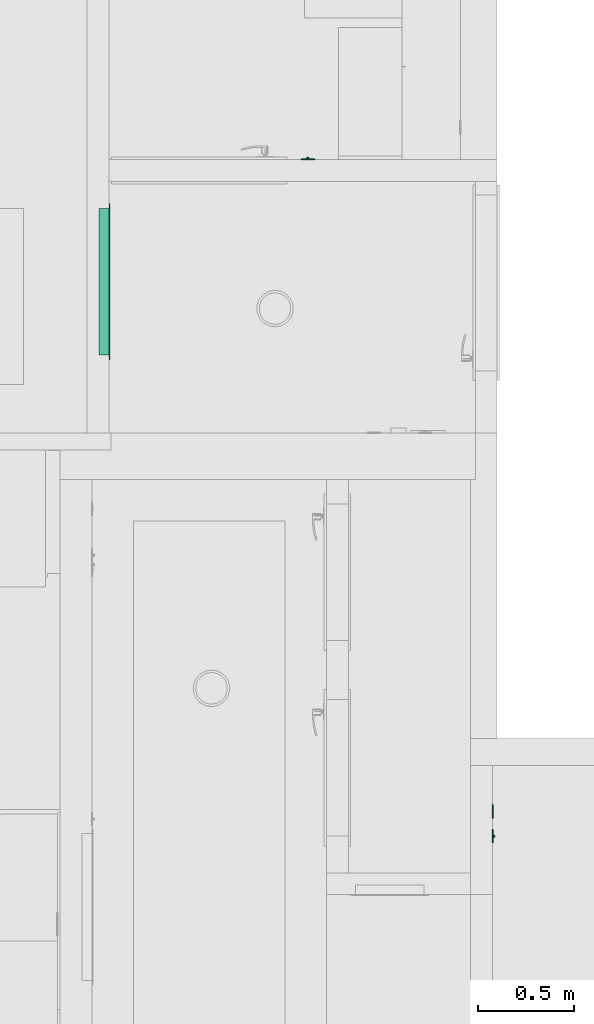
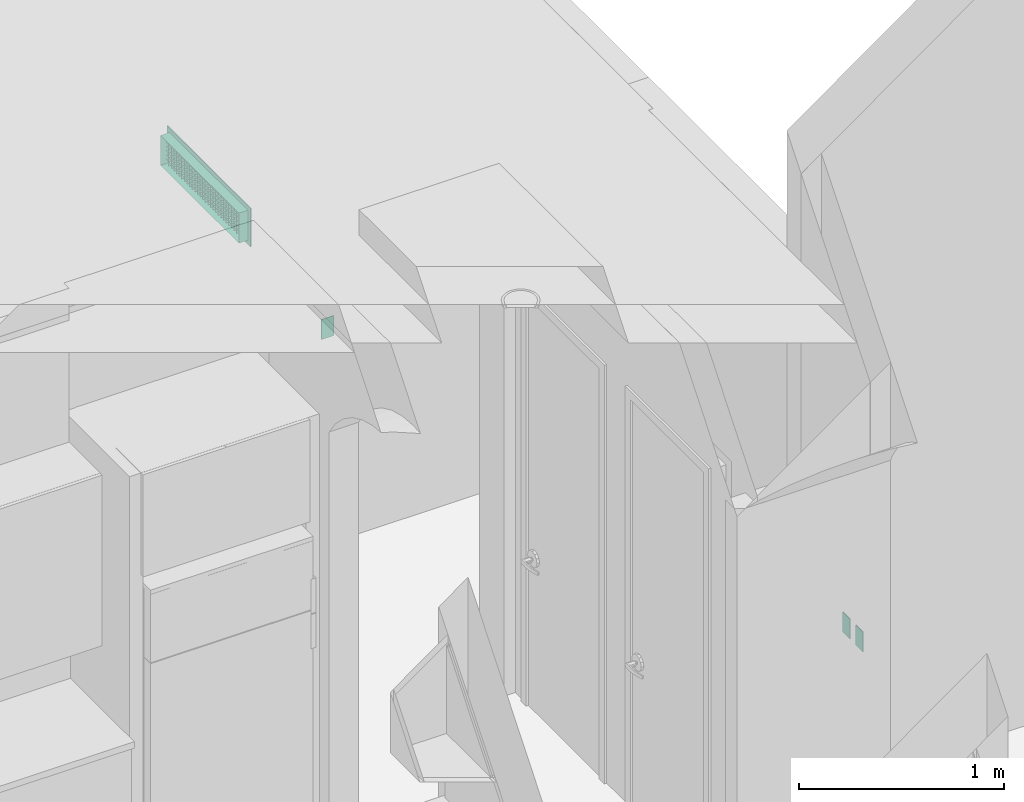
# One storey, part 29 of 103: 3 flow controllers, 1 distribution flow element.
"""IFC2X3 building model written with IfcOpenShell, lengths in inches."""

from ifc_helpers import new_model, entity, si_unit, converted_unit, derived_unit, money_unit, direction, frame, origin_with_axes, place, context, subcontext, project, spatial, open_shell, faceted_brep, surface_model, source, transform, mapped, type_object, element, save


model = new_model("IFC2X3")

# Units and contexts
model_context = context("Model", 3, precision=0.00039370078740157, world=origin_with_axes(), true_north=direction((0.0, 1.0)))
plan_context = context("Plan", 3, precision=0.00039370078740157, world=origin_with_axes(), true_north=direction((0.0, 1.0)))
body_context = subcontext(model_context, "Body", "Model", "MODEL_VIEW")
ifc_project = project(units=[converted_unit("LENGTHUNIT", "INCH", entity("IfcPositiveLengthMeasure", 0.0254), si_unit("LENGTHUNIT", "METRE"), dimensions=[1, 0, 0, 0, 0, 0, 0]), converted_unit("AREAUNIT", "SQUARE_FOOT", entity("IfcPositiveLengthMeasure", 0.09290304), si_unit("AREAUNIT", "SQUARE_METRE"), dimensions=[2, 0, 0, 0, 0, 0, 0]), si_unit("PLANEANGLEUNIT", "RADIAN"), si_unit("SOLIDANGLEUNIT", "STERADIAN"), money_unit("USD"), converted_unit("TIMEUNIT", "Year", entity("IfcTimeMeasure", 31557600.0), si_unit("TIMEUNIT", "SECOND"), dimensions=[0, 0, 1, 0, 0, 0, 0]), si_unit("MASSUNIT", "GRAM", prefix="KILO"), si_unit("THERMODYNAMICTEMPERATUREUNIT", "DEGREE_CELSIUS"), si_unit("LUMINOUSINTENSITYUNIT", "LUMEN"), si_unit("ENERGYUNIT", "JOULE", prefix="MEGA"), derived_unit("SPECIFICHEATCAPACITYUNIT", [(si_unit("ENERGYUNIT", "JOULE"), 1), (si_unit("MASSUNIT", "GRAM", prefix="KILO"), -1), (si_unit("THERMODYNAMICTEMPERATUREUNIT", "KELVIN"), -1)])], contexts=[model_context, plan_context])

# Site, building, storey
site_placement = place(None, origin_with_axes())
site = spatial("IfcSite", under=ifc_project, at=site_placement, Name="Site", CompositionType="ELEMENT")
building_placement = place(site_placement, origin_with_axes())
building = spatial("IfcBuilding", under=site, at=building_placement, Name="Building", CompositionType="ELEMENT")
storey_placement = place(building_placement, frame((0.0, 0.0, 127.9999999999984), z_axis=(0.0, 0.0, 1.0), x_axis=(1.0, 0.0, 0.0)))
storey = spatial("IfcBuildingStorey", under=building, at=storey_placement, Name="Second Floor", CompositionType="ELEMENT", Elevation=128.0)

# Flow controllers
switching_device_type_1 = type_object("IfcSwitchingDeviceType", Name="Switch US", PredefinedType="NOTDEFINED")
shared_shape_1 = source(origin_with_axes(), body_context, "Body", "Brep", [
    faceted_brep([(0.196850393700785, 0.0, -0.5905511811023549), (-0.196850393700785, 0.0, -0.5905511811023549), (-0.196850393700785, 0.0, 0.5905511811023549), (0.196850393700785, 0.0, 0.5905511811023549), (0.196850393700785, -0.1033464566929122, -0.5905511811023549), (-0.196850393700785, -0.1033464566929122, -0.5905511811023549), (-0.196850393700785, -0.1033464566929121, 0.157480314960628), (-0.196850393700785, -0.4970472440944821, 0.1574803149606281), (-0.196850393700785, -0.4970472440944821, 0.472440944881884), (-0.196850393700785, -0.1033464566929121, 0.472440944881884), (-0.196850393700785, -0.1033464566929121, 0.5905511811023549), (0.196850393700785, -0.103346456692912, 0.5905511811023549), (0.196850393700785, -0.1033464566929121, 0.472440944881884), (0.196850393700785, -0.4970472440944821, 0.472440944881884), (0.196850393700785, -0.4970472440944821, 0.1574803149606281), (0.196850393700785, -0.1033464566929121, 0.157480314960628)], [[[0, 1, 2, 3]], [[4, 5, 1, 0]], [[1, 5, 6, 7, 8, 9, 10, 2]], [[3, 2, 10, 11]], [[0, 3, 11, 12, 13, 14, 15, 4]], [[15, 6, 5, 4]], [[14, 7, 6, 15]], [[13, 8, 7, 14]], [[12, 9, 8, 13]], [[11, 10, 9, 12]]]),
    faceted_brep([(0.275590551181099, 0.0, -0.669291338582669), (0.275590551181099, -0.1771653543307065, -0.669291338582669), (-0.275590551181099, -0.1771653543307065, -0.669291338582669), (-0.275590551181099, 0.0, -0.669291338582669), (0.275590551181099, 0.0, 0.669291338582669), (0.275590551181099, -0.1771653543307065, 0.669291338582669), (-0.275590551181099, -0.1771653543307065, 0.669291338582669), (0.196850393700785, -0.1771653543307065, -0.5905511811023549), (-0.196850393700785, -0.1771653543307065, -0.5905511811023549), (-0.196850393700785, -0.1771653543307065, 0.5905511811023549), (0.196850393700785, -0.1771653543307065, 0.5905511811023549), (-0.275590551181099, 0.0, 0.669291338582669), (0.196850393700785, 0.0, -0.5905511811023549), (0.196850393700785, 0.0, 0.5905511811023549), (-0.196850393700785, 0.0, 0.5905511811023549), (-0.196850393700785, 0.0, -0.5905511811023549)], [[[0, 1, 2, 3]], [[4, 5, 1, 0]], [[1, 5, 6, 2], [7, 8, 9, 10]], [[3, 2, 6, 11]], [[0, 3, 11, 4], [12, 13, 14, 15]], [[11, 6, 5, 4]], [[15, 8, 7, 12]], [[14, 9, 8, 15]], [[13, 10, 9, 14]], [[12, 7, 10, 13]]]),
    faceted_brep([(1.343503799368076, -0.1377952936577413, 2.32775574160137), (-1.343503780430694, -0.1377952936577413, 2.32775574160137), (-1.343503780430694, -0.1377952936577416, -2.327755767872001), (1.343503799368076, -0.1377952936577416, -2.327755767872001), (0.275590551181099, -0.1377952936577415, -0.669291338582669), (-0.275590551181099, -0.1377952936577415, -0.669291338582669), (-0.275590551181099, -0.1377952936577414, 0.669291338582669), (0.275590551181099, -0.1377952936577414, 0.669291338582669), (1.352419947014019, -0.1366214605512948, 2.336671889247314), (-1.352419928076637, -0.1366214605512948, 2.336671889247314), (-1.352419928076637, -0.1366214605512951, -2.336671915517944), (1.352419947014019, -0.1366214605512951, -2.336671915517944), (-0.275590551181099, 0.0, -0.669291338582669), (0.275590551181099, 0.0, -0.669291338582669), (-0.275590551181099, 0.0, 0.669291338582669), (0.275590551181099, 0.0, 0.669291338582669), (1.36786294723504, -0.1277054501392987, 2.352114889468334), (-1.367862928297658, -0.1277054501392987, 2.352114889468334), (-1.367862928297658, -0.1277054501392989, -2.352114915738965), (1.36786294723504, -0.1277054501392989, -2.352114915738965), (1.377952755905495, 0.0, 2.36220472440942), (1.377952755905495, 0.0, -2.36220472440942), (-1.377952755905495, 0.0, -2.36220472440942), (-1.377952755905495, 0.0, 2.36220472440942), (1.376778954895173, -0.1122624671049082, 2.361030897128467), (-1.376778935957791, -0.1122624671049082, 2.361030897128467), (-1.376778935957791, -0.1122624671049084, -2.361030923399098), (1.376778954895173, -0.1122624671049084, -2.361030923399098), (1.377952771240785, -0.103346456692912, 2.362204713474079), (1.377952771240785, -0.1033464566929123, -2.36220473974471), (-1.377952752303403, -0.1033464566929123, -2.36220473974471), (-1.377952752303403, -0.103346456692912, 2.362204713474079)], [[[0, 1, 2, 3], [4, 5, 6, 7]], [[8, 9, 1, 0]], [[9, 10, 2, 1]], [[10, 11, 3, 2]], [[11, 8, 0, 3]], [[12, 5, 4, 13]], [[14, 6, 5, 12]], [[15, 7, 6, 14]], [[13, 4, 7, 15]], [[16, 17, 9, 8]], [[17, 18, 10, 9]], [[18, 19, 11, 10]], [[19, 16, 8, 11]], [[20, 21, 22, 23], [13, 15, 14, 12]], [[24, 25, 17, 16]], [[25, 26, 18, 17]], [[26, 27, 19, 18]], [[27, 24, 16, 19]], [[21, 20, 28, 29]], [[22, 21, 29, 30]], [[23, 22, 30, 31]], [[20, 23, 31, 28]], [[28, 31, 25, 24]], [[31, 30, 26, 25]], [[30, 29, 27, 26]], [[29, 28, 24, 27]]]),
])
for number, where, z_axis, x_axis, name in (
    (1, (205.7486662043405, 456.9999999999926, 46.99999999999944), (0.0, 0.0, 1.0), (-1.0, 0.0, 0.0), "OBJ-09"),
    (2, (243.4999999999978, 318.4999999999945, 44.99999999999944), (0.0, 0.0, 1.0), (0.0, 1.0, 0.0), "OBJ-09"),
):
    element("IfcFlowController", number, at=place(storey_placement, frame(where, z_axis=z_axis, x_axis=x_axis)), inside=storey, type_object=switching_device_type_1, Name=name, context=body_context, shape_type="MappedRepresentation", body=[
        mapped(shared_shape_1, transform((0.0, 0.0, 0.0))),
    ])
switching_device_type_2 = type_object("IfcSwitchingDeviceType", Name="Outlet 1 US", PredefinedType="NOTDEFINED")
shared_shape_2 = source(origin_with_axes(), body_context, "Body", "Brep", [
    faceted_brep([(0.39370078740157, -0.0344488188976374, -0.472440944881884), (0.3937007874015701, -0.03444881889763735, 0.472440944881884), (0.3937007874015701, -0.2165354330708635, 0.472440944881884), (0.39370078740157, -0.2165354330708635, -0.472440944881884), (-0.3937007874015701, -0.0344488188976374, -0.4724409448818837), (-0.39370078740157, -0.03444881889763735, 0.472440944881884), (-0.39370078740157, -0.2165354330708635, 0.472440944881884), (-0.3937007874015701, -0.2165354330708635, -0.4724409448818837)], [[[0, 1, 2, 3]], [[0, 4, 5, 1]], [[1, 5, 6, 2]], [[3, 2, 6, 7]], [[4, 0, 3, 7]], [[5, 4, 7, 6]]]),
    faceted_brep([(1.377952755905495, -0.1377952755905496, -2.36220472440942), (1.377952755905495, -0.1377952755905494, 2.36220472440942), (-1.377952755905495, -0.1377952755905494, 2.36220472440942), (-1.377952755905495, -0.1377952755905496, -2.36220472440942), (-0.3937007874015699, -0.1377952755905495, -0.4724409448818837), (-0.39370078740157, -0.1377952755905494, 0.4724409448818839), (0.3937007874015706, -0.1377952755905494, 0.4724409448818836), (0.39370078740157, -0.1377952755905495, -0.472440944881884), (1.377952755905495, 0.0, 2.36220472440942), (1.377952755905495, 0.0, -2.36220472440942), (-1.377952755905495, 0.0, 2.36220472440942), (-1.377952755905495, 0.0, -2.36220472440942), (-0.3937007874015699, -0.0344488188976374, -0.4724409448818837), (-0.39370078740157, -0.03444881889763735, 0.4724409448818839), (0.3937007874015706, -0.03444881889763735, 0.4724409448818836), (0.39370078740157, -0.0344488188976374, -0.472440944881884)], [[[0, 1, 2, 3], [4, 5, 6, 7]], [[8, 1, 0, 9]], [[10, 2, 1, 8]], [[11, 3, 2, 10]], [[9, 0, 3, 11]], [[5, 4, 12, 13]], [[6, 5, 13, 14]], [[7, 6, 14, 15]], [[4, 7, 15, 12]], [[10, 8, 9, 11]], [[14, 13, 12, 15]]]),
])
flow_controller_placement = place(storey_placement, frame((243.4999999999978, 323.4999999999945, 44.99999999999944), z_axis=(0.0, 0.0, 1.0), x_axis=(0.0, 1.0, 0.0)))
element("IfcFlowController", 3, at=flow_controller_placement, inside=storey, type_object=switching_device_type_2, Name="OBJ-05", context=body_context, shape_type="MappedRepresentation", body=[
    mapped(shared_shape_2, transform((0.0, 0.0, 0.0))),
])

# Distribution flow element
valve_type = type_object("IfcValveType", Name="Sidewall Grille", PredefinedType="NOTDEFINED")
shared_shape_3 = source(origin_with_axes(), body_context, "Body", "SurfaceModel", [
    faceted_brep([(15.99987696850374, -0.1968503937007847, -4.499876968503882), (-15.99987696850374, -0.1968503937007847, -4.499876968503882), (-15.99987696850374, 0.0, -4.499876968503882), (15.99987696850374, 0.0, -4.499876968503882), (15.99987696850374, -0.1968503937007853, 4.499876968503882), (-15.99987696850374, -0.1968503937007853, 4.499876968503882), (15.01562499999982, -0.1968503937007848, -3.515624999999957), (-15.01562499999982, -0.1968503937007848, -3.515624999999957), (-15.01562499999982, -0.1968503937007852, 3.515624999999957), (15.01562499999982, -0.1968503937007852, 3.515624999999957), (-15.99987696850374, 0.0, 4.499876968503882), (15.99987696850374, 0.0, 4.499876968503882), (15.01562499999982, 0.0, -3.515624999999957), (15.01562499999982, 0.0, 3.515624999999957), (-15.01562499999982, 0.0, 3.515624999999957), (-15.01562499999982, 0.0, -3.515624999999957)], [[[0, 1, 2, 3]], [[0, 4, 5, 1], [6, 7, 8, 9]], [[1, 5, 10, 2]], [[3, 2, 10, 11], [12, 13, 14, 15]], [[4, 0, 3, 11]], [[5, 4, 11, 10]], [[7, 6, 12, 15]], [[8, 7, 15, 14]], [[9, 8, 14, 13]], [[6, 9, 13, 12]]]),
    surface_model("IfcShellBasedSurfaceModel", [(-14.97625492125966, -0.1968503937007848, -3.499999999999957), (14.97625492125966, -0.1968503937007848, -3.499999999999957), (14.97625492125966, 0.7874015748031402, -3.499999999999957), (-14.97625492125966, 0.7874015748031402, -3.499999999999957)], [open_shell([[[0, 1, 2, 3]]])]),
    surface_model("IfcShellBasedSurfaceModel", [(-14.97625492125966, -0.1968503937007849, -2.499999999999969), (14.97625492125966, -0.1968503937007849, -2.499999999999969), (14.97625492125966, 0.7874015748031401, -2.499999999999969), (-14.97625492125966, 0.7874015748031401, -2.499999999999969)], [open_shell([[[0, 1, 2, 3]]])]),
    surface_model("IfcShellBasedSurfaceModel", [(-14.97625492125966, -0.1968503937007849, -1.499999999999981), (14.97625492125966, -0.1968503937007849, -1.499999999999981), (14.97625492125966, 0.7874015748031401, -1.499999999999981), (-14.97625492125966, 0.7874015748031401, -1.499999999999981)], [open_shell([[[0, 1, 2, 3]]])]),
    surface_model("IfcShellBasedSurfaceModel", [(-14.97625492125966, -0.196850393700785, -0.499999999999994), (14.97625492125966, -0.196850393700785, -0.499999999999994), (14.97625492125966, 0.7874015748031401, -0.499999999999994), (-14.97625492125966, 0.7874015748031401, -0.499999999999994)], [open_shell([[[0, 1, 2, 3]]])]),
    surface_model("IfcShellBasedSurfaceModel", [(-14.97625492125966, -0.196850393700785, 0.499999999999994), (14.97625492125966, -0.196850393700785, 0.499999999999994), (14.97625492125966, 0.78740157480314, 0.499999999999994), (-14.97625492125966, 0.78740157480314, 0.499999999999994)], [open_shell([[[0, 1, 2, 3]]])]),
    surface_model("IfcShellBasedSurfaceModel", [(-14.97625492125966, -0.1968503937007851, 1.499999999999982), (14.97625492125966, -0.1968503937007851, 1.499999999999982), (14.97625492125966, 0.7874015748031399, 1.499999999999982), (-14.97625492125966, 0.7874015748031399, 1.499999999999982)], [open_shell([[[0, 1, 2, 3]]])]),
    surface_model("IfcShellBasedSurfaceModel", [(-14.97625492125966, -0.1968503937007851, 2.499999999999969), (14.97625492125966, -0.1968503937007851, 2.499999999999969), (14.97625492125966, 0.7874015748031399, 2.499999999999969), (-14.97625492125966, 0.7874015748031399, 2.499999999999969)], [open_shell([[[0, 1, 2, 3]]])]),
    surface_model("IfcShellBasedSurfaceModel", [(-14.97625492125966, -0.1968503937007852, 3.499999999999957), (14.97625492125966, -0.1968503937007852, 3.499999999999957), (14.97625492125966, 0.7874015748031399, 3.499999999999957), (-14.97625492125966, 0.7874015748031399, 3.499999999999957)], [open_shell([[[0, 1, 2, 3]]])]),
    surface_model("IfcShellBasedSurfaceModel", [(14.99999999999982, -0.1968503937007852, 3.4762549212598), (14.99999999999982, -0.1968503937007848, -3.4762549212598), (14.99999999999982, 0.7874015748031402, -3.4762549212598), (14.99999999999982, 0.7874015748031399, 3.4762549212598)], [open_shell([[[0, 1, 2, 3]]])]),
    surface_model("IfcShellBasedSurfaceModel", [(13.99999999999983, -0.1968503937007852, 3.4762549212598), (13.99999999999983, -0.1968503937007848, -3.4762549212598), (13.99999999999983, 0.7874015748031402, -3.4762549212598), (13.99999999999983, 0.7874015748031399, 3.4762549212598)], [open_shell([[[0, 1, 2, 3]]])]),
    surface_model("IfcShellBasedSurfaceModel", [(12.99999999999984, -0.1968503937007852, 3.4762549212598), (12.99999999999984, -0.1968503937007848, -3.4762549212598), (12.99999999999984, 0.7874015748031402, -3.4762549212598), (12.99999999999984, 0.7874015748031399, 3.4762549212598)], [open_shell([[[0, 1, 2, 3]]])]),
    surface_model("IfcShellBasedSurfaceModel", [(11.99999999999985, -0.1968503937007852, 3.4762549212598), (11.99999999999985, -0.1968503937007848, -3.4762549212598), (11.99999999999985, 0.7874015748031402, -3.4762549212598), (11.99999999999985, 0.7874015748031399, 3.4762549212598)], [open_shell([[[0, 1, 2, 3]]])]),
    surface_model("IfcShellBasedSurfaceModel", [(10.99999999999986, -0.1968503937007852, 3.4762549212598), (10.99999999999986, -0.1968503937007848, -3.4762549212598), (10.99999999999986, 0.7874015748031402, -3.4762549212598), (10.99999999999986, 0.7874015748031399, 3.4762549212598)], [open_shell([[[0, 1, 2, 3]]])]),
    surface_model("IfcShellBasedSurfaceModel", [(9.999999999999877, -0.1968503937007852, 3.4762549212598), (9.999999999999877, -0.1968503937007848, -3.4762549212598), (9.999999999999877, 0.7874015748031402, -3.4762549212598), (9.999999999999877, 0.7874015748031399, 3.4762549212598)], [open_shell([[[0, 1, 2, 3]]])]),
    surface_model("IfcShellBasedSurfaceModel", [(8.999999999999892, -0.1968503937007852, 3.4762549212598), (8.999999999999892, -0.1968503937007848, -3.4762549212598), (8.999999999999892, 0.7874015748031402, -3.4762549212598), (8.999999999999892, 0.7874015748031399, 3.4762549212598)], [open_shell([[[0, 1, 2, 3]]])]),
    surface_model("IfcShellBasedSurfaceModel", [(7.999999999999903, -0.1968503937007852, 3.4762549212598), (7.999999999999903, -0.1968503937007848, -3.4762549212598), (7.999999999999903, 0.7874015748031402, -3.4762549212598), (7.999999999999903, 0.7874015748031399, 3.4762549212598)], [open_shell([[[0, 1, 2, 3]]])]),
    surface_model("IfcShellBasedSurfaceModel", [(6.999999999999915, -0.1968503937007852, 3.4762549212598), (6.999999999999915, -0.1968503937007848, -3.4762549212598), (6.999999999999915, 0.7874015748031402, -3.4762549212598), (6.999999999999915, 0.7874015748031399, 3.4762549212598)], [open_shell([[[0, 1, 2, 3]]])]),
    surface_model("IfcShellBasedSurfaceModel", [(5.999999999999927, -0.1968503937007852, 3.4762549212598), (5.999999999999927, -0.1968503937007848, -3.4762549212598), (5.999999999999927, 0.7874015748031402, -3.4762549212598), (5.999999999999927, 0.7874015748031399, 3.4762549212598)], [open_shell([[[0, 1, 2, 3]]])]),
    surface_model("IfcShellBasedSurfaceModel", [(4.999999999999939, -0.1968503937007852, 3.4762549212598), (4.999999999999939, -0.1968503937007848, -3.4762549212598), (4.999999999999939, 0.7874015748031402, -3.4762549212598), (4.999999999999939, 0.7874015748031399, 3.4762549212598)], [open_shell([[[0, 1, 2, 3]]])]),
    surface_model("IfcShellBasedSurfaceModel", [(3.999999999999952, -0.1968503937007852, 3.4762549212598), (3.999999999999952, -0.1968503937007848, -3.4762549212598), (3.999999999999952, 0.7874015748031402, -3.4762549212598), (3.999999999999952, 0.7874015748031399, 3.4762549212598)], [open_shell([[[0, 1, 2, 3]]])]),
    surface_model("IfcShellBasedSurfaceModel", [(2.999999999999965, -0.1968503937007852, 3.4762549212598), (2.999999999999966, -0.1968503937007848, -3.4762549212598), (2.999999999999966, 0.7874015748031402, -3.4762549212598), (2.999999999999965, 0.7874015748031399, 3.4762549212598)], [open_shell([[[0, 1, 2, 3]]])]),
    surface_model("IfcShellBasedSurfaceModel", [(1.999999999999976, -0.1968503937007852, 3.4762549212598), (1.999999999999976, -0.1968503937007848, -3.4762549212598), (1.999999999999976, 0.7874015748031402, -3.4762549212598), (1.999999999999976, 0.7874015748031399, 3.4762549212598)], [open_shell([[[0, 1, 2, 3]]])]),
    surface_model("IfcShellBasedSurfaceModel", [(0.9999999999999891, -0.1968503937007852, 3.4762549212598), (0.9999999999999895, -0.1968503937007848, -3.4762549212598), (0.9999999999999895, 0.7874015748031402, -3.4762549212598), (0.9999999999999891, 0.7874015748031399, 3.4762549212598)], [open_shell([[[0, 1, 2, 3]]])]),
    surface_model("IfcShellBasedSurfaceModel", [(0.0, -0.1968503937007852, 3.4762549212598), (0.0, -0.1968503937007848, -3.4762549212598), (0.0, 0.7874015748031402, -3.4762549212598), (0.0, 0.7874015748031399, 3.4762549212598)], [open_shell([[[0, 1, 2, 3]]])]),
    surface_model("IfcShellBasedSurfaceModel", [(-0.9999999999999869, -0.1968503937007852, 3.4762549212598), (-0.9999999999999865, -0.1968503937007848, -3.4762549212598), (-0.9999999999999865, 0.7874015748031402, -3.4762549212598), (-0.9999999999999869, 0.7874015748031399, 3.4762549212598)], [open_shell([[[0, 1, 2, 3]]])]),
    surface_model("IfcShellBasedSurfaceModel", [(-1.999999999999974, -0.1968503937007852, 3.4762549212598), (-1.999999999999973, -0.1968503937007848, -3.4762549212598), (-1.999999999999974, 0.7874015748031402, -3.4762549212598), (-1.999999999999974, 0.7874015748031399, 3.4762549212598)], [open_shell([[[0, 1, 2, 3]]])]),
    surface_model("IfcShellBasedSurfaceModel", [(-2.999999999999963, -0.1968503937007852, 3.4762549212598), (-2.999999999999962, -0.1968503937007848, -3.4762549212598), (-2.999999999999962, 0.7874015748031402, -3.4762549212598), (-2.999999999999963, 0.7874015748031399, 3.4762549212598)], [open_shell([[[0, 1, 2, 3]]])]),
    surface_model("IfcShellBasedSurfaceModel", [(-3.99999999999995, -0.1968503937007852, 3.4762549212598), (-3.999999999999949, -0.1968503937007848, -3.4762549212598), (-3.999999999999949, 0.7874015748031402, -3.4762549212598), (-3.99999999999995, 0.7874015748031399, 3.4762549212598)], [open_shell([[[0, 1, 2, 3]]])]),
    surface_model("IfcShellBasedSurfaceModel", [(-4.999999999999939, -0.1968503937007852, 3.4762549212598), (-4.999999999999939, -0.1968503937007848, -3.4762549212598), (-4.999999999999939, 0.7874015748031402, -3.4762549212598), (-4.999999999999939, 0.7874015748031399, 3.4762549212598)], [open_shell([[[0, 1, 2, 3]]])]),
    surface_model("IfcShellBasedSurfaceModel", [(-5.999999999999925, -0.1968503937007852, 3.4762549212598), (-5.999999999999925, -0.1968503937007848, -3.4762549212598), (-5.999999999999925, 0.7874015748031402, -3.4762549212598), (-5.999999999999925, 0.7874015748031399, 3.4762549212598)], [open_shell([[[0, 1, 2, 3]]])]),
    surface_model("IfcShellBasedSurfaceModel", [(-6.999999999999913, -0.1968503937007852, 3.4762549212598), (-6.999999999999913, -0.1968503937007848, -3.4762549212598), (-6.999999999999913, 0.7874015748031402, -3.4762549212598), (-6.999999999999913, 0.7874015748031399, 3.4762549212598)], [open_shell([[[0, 1, 2, 3]]])]),
    surface_model("IfcShellBasedSurfaceModel", [(-7.9999999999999, -0.1968503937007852, 3.4762549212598), (-7.9999999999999, -0.1968503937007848, -3.4762549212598), (-7.9999999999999, 0.7874015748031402, -3.4762549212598), (-7.9999999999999, 0.7874015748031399, 3.4762549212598)], [open_shell([[[0, 1, 2, 3]]])]),
    surface_model("IfcShellBasedSurfaceModel", [(-8.999999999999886, -0.1968503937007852, 3.4762549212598), (-8.999999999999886, -0.1968503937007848, -3.4762549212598), (-8.999999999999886, 0.7874015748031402, -3.4762549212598), (-8.999999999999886, 0.7874015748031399, 3.4762549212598)], [open_shell([[[0, 1, 2, 3]]])]),
    surface_model("IfcShellBasedSurfaceModel", [(-9.999999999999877, -0.1968503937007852, 3.4762549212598), (-9.999999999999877, -0.1968503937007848, -3.4762549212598), (-9.999999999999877, 0.7874015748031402, -3.4762549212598), (-9.999999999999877, 0.7874015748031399, 3.4762549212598)], [open_shell([[[0, 1, 2, 3]]])]),
    surface_model("IfcShellBasedSurfaceModel", [(-10.99999999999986, -0.1968503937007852, 3.4762549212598), (-10.99999999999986, -0.1968503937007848, -3.4762549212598), (-10.99999999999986, 0.7874015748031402, -3.4762549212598), (-10.99999999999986, 0.7874015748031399, 3.4762549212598)], [open_shell([[[0, 1, 2, 3]]])]),
    surface_model("IfcShellBasedSurfaceModel", [(-11.99999999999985, -0.1968503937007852, 3.4762549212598), (-11.99999999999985, -0.1968503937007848, -3.4762549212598), (-11.99999999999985, 0.7874015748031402, -3.4762549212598), (-11.99999999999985, 0.7874015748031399, 3.4762549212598)], [open_shell([[[0, 1, 2, 3]]])]),
    surface_model("IfcShellBasedSurfaceModel", [(-12.99999999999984, -0.1968503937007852, 3.4762549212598), (-12.99999999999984, -0.1968503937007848, -3.4762549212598), (-12.99999999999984, 0.7874015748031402, -3.4762549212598), (-12.99999999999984, 0.7874015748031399, 3.4762549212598)], [open_shell([[[0, 1, 2, 3]]])]),
    surface_model("IfcShellBasedSurfaceModel", [(-13.99999999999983, -0.1968503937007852, 3.4762549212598), (-13.99999999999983, -0.1968503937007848, -3.4762549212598), (-13.99999999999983, 0.7874015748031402, -3.4762549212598), (-13.99999999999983, 0.7874015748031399, 3.4762549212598)], [open_shell([[[0, 1, 2, 3]]])]),
    surface_model("IfcShellBasedSurfaceModel", [(-14.99999999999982, -0.1968503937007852, 3.4762549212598), (-14.99999999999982, -0.1968503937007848, -3.4762549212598), (-14.99999999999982, 0.7874015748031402, -3.4762549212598), (-14.99999999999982, 0.7874015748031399, 3.4762549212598)], [open_shell([[[0, 1, 2, 3]]])]),
    surface_model("IfcShellBasedSurfaceModel", [(-15.01562499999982, 0.0, -3.515624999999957), (-15.01562499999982, 0.0, 3.515624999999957), (-15.01562499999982, 1.999999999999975, 3.515624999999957), (-15.01562499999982, 1.999999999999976, -3.515624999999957), (15.01562499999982, 0.0, 3.515624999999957), (15.01562499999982, 1.999999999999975, 3.515624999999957), (15.01562499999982, 0.0, -3.515624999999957), (15.01562499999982, 1.999999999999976, -3.515624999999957)], [open_shell([[[0, 1, 2, 3]], [[1, 4, 5, 2]], [[6, 0, 3, 7]], [[4, 6, 7, 5]]])]),
])
distribution_flow_element_placement = place(storey_placement, frame((164.9999999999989, 432.0001954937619, 109.4999999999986), z_axis=(0.0, 0.0, 1.0), x_axis=(0.0, 1.0, 0.0)))
element("IfcDistributionFlowElement", 4, at=distribution_flow_element_placement, inside=storey, type_object=valve_type, Name="FU - 004", context=body_context, shape_type="MappedRepresentation", body=[
    mapped(shared_shape_3, transform((0.0, 0.0, 0.0))),
])

save(model, "model.ifc")
